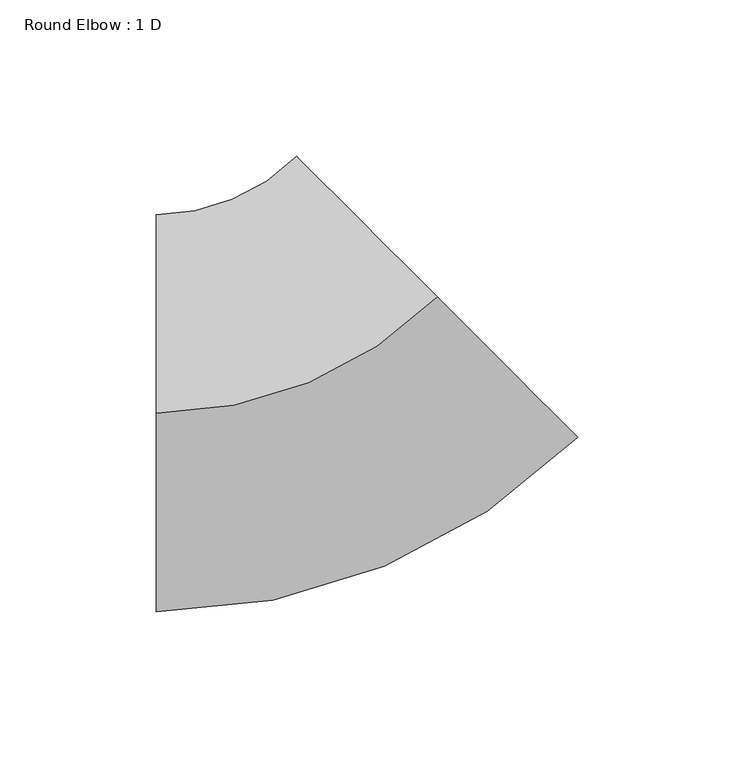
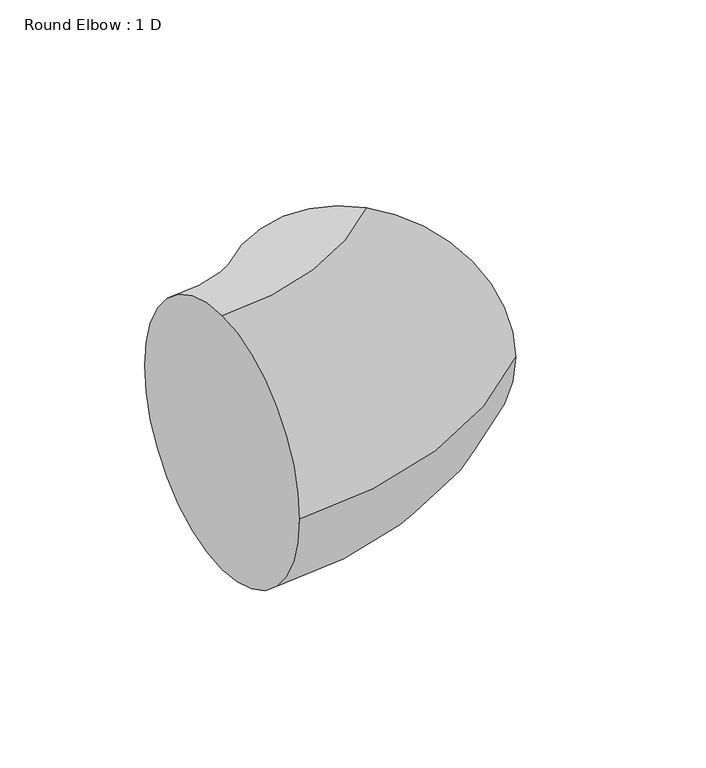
"""IFC4 building model written with IfcOpenShell, lengths in millimetres: duct fitting geometry, Round Elbow : 1 D."""

from ifc_helpers import new_model, si_unit, point, frame, origin, place, context, project, spatial, circle_curve, ellipse_curve, trimmed, source, transform, mapped, element, save
from ifc_brep_helpers import plane_surface, revolved_surface, advanced_brep


def round_elbow_1_d_d4250430(model_context):
    return source(origin(), model_context, "Body", "AdvancedBrep", [
        advanced_brep(
        [(-52.6051339, 0.0, 63.5), (-52.6051339, 63.5, 0.0), (-52.6051339, 0.0, -63.5), (-52.6051339, -63.5, 0.0), (37.1974412, 37.1974526, 63.5), (82.0987287, -7.703821, 0.0), (37.1974412, 37.1974526, -63.5), (-7.7038464, 82.0987263, 0.0)],
        [
            (0, 1, circle_curve(frame((-52.6051339, 0.0, 0.0), z_axis=(-1.0, 0.0, 0.0), x_axis=(0.0, 1.0, 0.0)), 63.5)),
            (1, 2, circle_curve(frame((-52.6051339, 0.0, 0.0), z_axis=(-1.0, 0.0, 0.0), x_axis=(0.0, 1.0, 0.0)), 63.5)),
            (2, 3, circle_curve(frame((-52.6051339, 0.0, 0.0), z_axis=(-1.0, 0.0, 0.0), x_axis=(0.0, 1.0, 0.0)), 63.5)),
            (3, 0, circle_curve(frame((-52.6051339, 0.0, 0.0), z_axis=(-1.0, 0.0, 0.0), x_axis=(0.0, 1.0, 0.0)), 63.5)),
            (4, 5, circle_curve(frame((37.1974412, 37.1974526, 0.0), z_axis=(0.7071066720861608, 0.7071068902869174, 0.0), x_axis=(-0.7071068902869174, 0.7071066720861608, 0.0)), 63.5)),
            (5, 6, circle_curve(frame((37.1974412, 37.1974526, 0.0), z_axis=(0.7071066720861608, 0.7071068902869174, 0.0), x_axis=(-0.7071068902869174, 0.7071066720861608, 0.0)), 63.5)),
            (6, 7, circle_curve(frame((37.1974412, 37.1974526, 0.0), z_axis=(0.7071066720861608, 0.7071068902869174, 0.0), x_axis=(-0.7071068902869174, 0.7071066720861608, 0.0)), 63.5)),
            (7, 4, circle_curve(frame((37.1974412, 37.1974526, 0.0), z_axis=(0.7071066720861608, 0.7071068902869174, 0.0), x_axis=(-0.7071068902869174, 0.7071066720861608, 0.0)), 63.5)),
            (7, 1, circle_curve(frame((-52.6051339, 127.0, 0.0), z_axis=(0.0, 0.0, -1.0), x_axis=(0.0, -1.0, 0.0)), 63.5)),
            (0, 4, circle_curve(frame((-52.6051339, 127.0, 63.5), z_axis=(0.0, 0.0, 1.0), x_axis=(0.0, -1.0, 0.0)), 127.0)),
            (6, 2, circle_curve(frame((-52.6051339, 127.0, -63.5), z_axis=(0.0, 0.0, -1.0), x_axis=(0.0, -1.0, 0.0)), 127.0)),
            (5, 3, circle_curve(frame((-52.6051339, 127.0, 0.0), z_axis=(0.0, 0.0, -1.0), x_axis=(0.0, -1.0, 0.0)), 190.5)),
        ],
        [
            plane_surface(frame((-52.6051339, 0.0, 0.0), z_axis=(-1.0, 0.0, 0.0), x_axis=(0.0, 0.0, 1.0))),
            plane_surface(frame((37.1974412, 37.1974526, 0.0), z_axis=(0.707106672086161, 0.7071068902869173, 0.0), x_axis=(0.0, 0.0, 1.0))),
            revolved_surface(trimmed(ellipse_curve(frame((-52.6051339, 0.0, 0.0), z_axis=(-1.0, 0.0, 0.0), x_axis=(0.0, 1.0, 0.0)), 63.5, 63.5), [point((-52.6051339, 0.0, 63.5))], [point((-52.6051339, 63.5, 0.0))], True, "CARTESIAN"), (-52.6051339, 127.0, 0.0), (0.0, 0.0, 1.0)),
            revolved_surface(trimmed(ellipse_curve(frame((-52.6051339, 0.0, 0.0), z_axis=(-1.0, 0.0, 0.0), x_axis=(0.0, 1.0, 0.0)), 63.5, 63.5), [point((-52.6051339, 63.5, 0.0))], [point((-52.6051339, 0.0, -63.5))], True, "CARTESIAN"), (-52.6051339, 127.0, 0.0), (0.0, 0.0, 1.0)),
            revolved_surface(trimmed(ellipse_curve(frame((-52.6051339, 0.0, 0.0), z_axis=(-1.0, 0.0, 0.0), x_axis=(0.0, 1.0, 0.0)), 63.5, 63.5), [point((-52.6051339, 0.0, -63.5))], [point((-52.6051339, -63.5, 0.0))], True, "CARTESIAN"), (-52.6051339, 127.0, 0.0), (0.0, 0.0, 1.0)),
            revolved_surface(trimmed(ellipse_curve(frame((-52.6051339, 0.0, 0.0), z_axis=(-1.0, 0.0, 0.0), x_axis=(0.0, 1.0, 0.0)), 63.5, 63.5), [point((-52.6051339, -63.5, 0.0))], [point((-52.6051339, 0.0, 63.5))], True, "CARTESIAN"), (-52.6051339, 127.0, 0.0), (0.0, 0.0, 1.0)),
        ],
        [
            (0, [[1, 2, 3, 4]]),
            (1, [[5, 6, 7, 8]]),
            (2, [[9, -1, 10, -8]]),
            (3, [[11, -2, -9, -7]]),
            (4, [[12, -3, -11, -6]]),
            (5, [[-10, -4, -12, -5]]),
        ],
    ),
    ])


if __name__ == "__main__":
    model = new_model("IFC4")
    model_context = context("Model", 3, world=origin())
    ifc_project = project(units=[si_unit("LENGTHUNIT", "METRE", prefix="MILLI")], contexts=[model_context])
    site = spatial("IfcSite", under=ifc_project)
    building = spatial("IfcBuilding", under=site)
    placement = place(None, origin())
    round_elbow_1_d_shape = round_elbow_1_d_d4250430(model_context)
    element("IfcDuctFitting", 1, ObjectType="Round Elbow : 1 D", at=placement, inside=building, context=model_context, shape_type="MappedRepresentation", body=[
        mapped(round_elbow_1_d_shape, transform((0.0, 0.0, 0.0), x_axis=(1.0, 0.0, 0.0), y_axis=(0.0, 1.0, 0.0), z_axis=(0.0, 0.0, 1.0))),
    ])
    save(model, "model.ifc")
